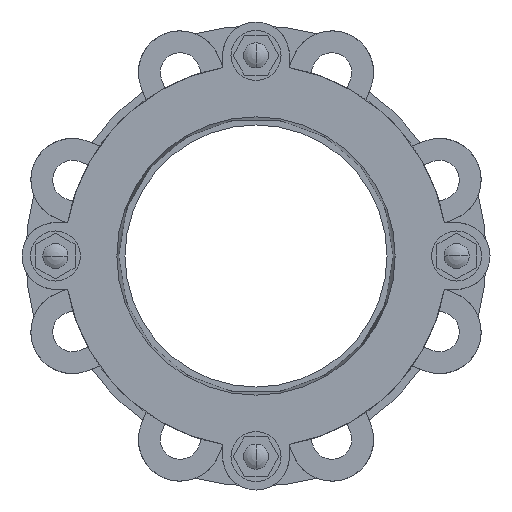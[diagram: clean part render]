
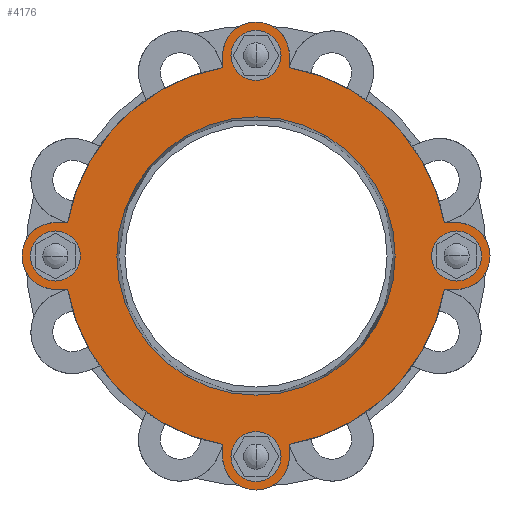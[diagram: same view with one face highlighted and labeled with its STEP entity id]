
A CAD part, left-side view. The second image highlights one B-rep face of the part: STEP entity #4176.
In plain terms, the highlighted planar face has unit normal (-1, 0, 0).
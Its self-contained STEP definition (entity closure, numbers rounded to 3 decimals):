
#355=CARTESIAN_POINT('',(-95.,0.,0.));
#356=DIRECTION('',(-1.,0.,0.));
#357=DIRECTION('',(0.,-0.174,-0.985));
#358=AXIS2_PLACEMENT_3D('',#355,#356,#357);
#391=CARTESIAN_POINT('',(-95.,0.,0.));
#392=DIRECTION('',(-1.,0.,0.));
#393=DIRECTION('',(0.,0.985,-0.174));
#394=AXIS2_PLACEMENT_3D('',#391,#392,#393);
#400=CARTESIAN_POINT('',(-95.,0.,0.));
#401=DIRECTION('',(-1.,0.,0.));
#402=DIRECTION('',(0.,0.174,0.985));
#403=AXIS2_PLACEMENT_3D('',#400,#401,#402);
#427=CARTESIAN_POINT('',(-95.,0.,0.));
#428=DIRECTION('',(-1.,0.,0.));
#429=DIRECTION('',(0.,-0.985,0.174));
#430=AXIS2_PLACEMENT_3D('',#427,#428,#429);
#485=DIRECTION('',(0.,0.,-1.));
#486=VECTOR('',#485,5.906);
#487=CARTESIAN_POINT('',(-95.,16.,-90.344));
#488=LINE('',#487,#486);
#497=CARTESIAN_POINT('',(-95.,0.,-96.25));
#498=DIRECTION('',(-1.,0.,0.));
#499=DIRECTION('',(0.,0.,-1.));
#500=AXIS2_PLACEMENT_3D('',#497,#498,#499);
#502=CARTESIAN_POINT('',(-95.,0.,-96.25));
#503=DIRECTION('',(-1.,0.,0.));
#504=DIRECTION('',(0.,0.,1.));
#505=AXIS2_PLACEMENT_3D('',#502,#503,#504);
#507=CARTESIAN_POINT('',(-95.,0.,96.25));
#508=DIRECTION('',(-1.,0.,0.));
#509=DIRECTION('',(0.,0.,1.));
#510=AXIS2_PLACEMENT_3D('',#507,#508,#509);
#512=CARTESIAN_POINT('',(-95.,0.,96.25));
#513=DIRECTION('',(-1.,0.,0.));
#514=DIRECTION('',(0.,0.,-1.));
#515=AXIS2_PLACEMENT_3D('',#512,#513,#514);
#517=CARTESIAN_POINT('',(-95.,96.25,0.));
#518=DIRECTION('',(-1.,0.,0.));
#519=DIRECTION('',(0.,1.,0.));
#520=AXIS2_PLACEMENT_3D('',#517,#518,#519);
#522=CARTESIAN_POINT('',(-95.,96.25,0.));
#523=DIRECTION('',(-1.,0.,0.));
#524=DIRECTION('',(0.,-1.,0.));
#525=AXIS2_PLACEMENT_3D('',#522,#523,#524);
#527=DIRECTION('',(0.,-1.,0.));
#528=VECTOR('',#527,5.906);
#529=CARTESIAN_POINT('',(-95.,96.25,-16.));
#530=LINE('',#529,#528);
#531=CARTESIAN_POINT('',(-95.,96.25,0.));
#532=DIRECTION('',(-1.,0.,0.));
#533=DIRECTION('',(0.,0.,1.));
#534=AXIS2_PLACEMENT_3D('',#531,#532,#533);
#536=DIRECTION('',(0.,1.,0.));
#537=VECTOR('',#536,5.906);
#538=CARTESIAN_POINT('',(-95.,90.344,16.));
#539=LINE('',#538,#537);
#540=CARTESIAN_POINT('',(-95.,-96.25,0.));
#541=DIRECTION('',(-1.,0.,0.));
#542=DIRECTION('',(0.,-1.,0.));
#543=AXIS2_PLACEMENT_3D('',#540,#541,#542);
#545=CARTESIAN_POINT('',(-95.,-96.25,0.));
#546=DIRECTION('',(-1.,0.,0.));
#547=DIRECTION('',(0.,1.,0.));
#548=AXIS2_PLACEMENT_3D('',#545,#546,#547);
#934=DIRECTION('',(0.,0.,1.));
#935=VECTOR('',#934,5.906);
#936=CARTESIAN_POINT('',(-95.,-16.,-96.25));
#937=LINE('',#936,#935);
#950=CARTESIAN_POINT('',(-95.,0.,-96.25));
#951=DIRECTION('',(-1.,0.,0.));
#952=DIRECTION('',(0.,1.,0.));
#953=AXIS2_PLACEMENT_3D('',#950,#951,#952);
#1627=CARTESIAN_POINT('',(-95.,0.,0.));
#1628=DIRECTION('',(1.,0.,0.));
#1629=DIRECTION('',(0.,1.,0.));
#1630=AXIS2_PLACEMENT_3D('',#1627,#1628,#1629);
#1640=CARTESIAN_POINT('',(-95.,0.,0.));
#1641=DIRECTION('',(-1.,0.,0.));
#1642=DIRECTION('',(0.,1.,0.));
#1643=AXIS2_PLACEMENT_3D('',#1640,#1641,#1642);
#2217=DIRECTION('',(0.,0.,-1.));
#2218=VECTOR('',#2217,5.906);
#2219=CARTESIAN_POINT('',(-95.,16.,96.25));
#2220=LINE('',#2219,#2218);
#2233=CARTESIAN_POINT('',(-95.,0.,96.25));
#2234=DIRECTION('',(-1.,0.,0.));
#2235=DIRECTION('',(0.,-1.,0.));
#2236=AXIS2_PLACEMENT_3D('',#2233,#2234,#2235);
#2256=DIRECTION('',(0.,0.,1.));
#2257=VECTOR('',#2256,5.906);
#2258=CARTESIAN_POINT('',(-95.,-16.,90.344));
#2259=LINE('',#2258,#2257);
#2503=DIRECTION('',(0.,1.,0.));
#2504=VECTOR('',#2503,5.906);
#2505=CARTESIAN_POINT('',(-95.,-96.25,16.));
#2506=LINE('',#2505,#2504);
#2545=DIRECTION('',(0.,-1.,0.));
#2546=VECTOR('',#2545,5.906);
#2547=CARTESIAN_POINT('',(-95.,-90.344,-16.));
#2548=LINE('',#2547,#2546);
#2557=CARTESIAN_POINT('',(-95.,-96.25,0.));
#2558=DIRECTION('',(-1.,0.,0.));
#2559=DIRECTION('',(0.,0.,-1.));
#2560=AXIS2_PLACEMENT_3D('',#2557,#2558,#2559);
#2754=CARTESIAN_POINT('',(-95.,66.75,0.));
#2756=VERTEX_POINT('',#2754);
#2758=CARTESIAN_POINT('',(-95.,-66.75,0.));
#2760=VERTEX_POINT('',#2758);
#2770=CARTESIAN_POINT('',(-95.,96.25,16.));
#2771=CARTESIAN_POINT('',(-95.,96.25,-16.));
#2772=VERTEX_POINT('',#2770);
#2773=VERTEX_POINT('',#2771);
#2775=CARTESIAN_POINT('',(-95.,90.344,16.));
#2777=VERTEX_POINT('',#2775);
#2778=CARTESIAN_POINT('',(-95.,90.344,-16.));
#2780=VERTEX_POINT('',#2778);
#2838=CARTESIAN_POINT('',(-95.,16.,96.25));
#2839=VERTEX_POINT('',#2838);
#2840=CARTESIAN_POINT('',(-95.,-16.,96.25));
#2841=VERTEX_POINT('',#2840);
#2870=CARTESIAN_POINT('',(-95.,-96.25,16.));
#2871=VERTEX_POINT('',#2870);
#2872=CARTESIAN_POINT('',(-95.,-96.25,-16.));
#2873=VERTEX_POINT('',#2872);
#2902=CARTESIAN_POINT('',(-95.,-16.,-96.25));
#2903=VERTEX_POINT('',#2902);
#2904=CARTESIAN_POINT('',(-95.,16.,-96.25));
#2905=VERTEX_POINT('',#2904);
#2914=CARTESIAN_POINT('',(-95.,-16.,90.344));
#2915=VERTEX_POINT('',#2914);
#2916=CARTESIAN_POINT('',(-95.,16.,90.344));
#2917=VERTEX_POINT('',#2916);
#2926=CARTESIAN_POINT('',(-95.,-90.344,-16.));
#2927=VERTEX_POINT('',#2926);
#2928=CARTESIAN_POINT('',(-95.,-90.344,16.));
#2929=VERTEX_POINT('',#2928);
#2940=CARTESIAN_POINT('',(-95.,16.,-90.344));
#2941=VERTEX_POINT('',#2940);
#2942=CARTESIAN_POINT('',(-95.,-16.,-90.344));
#2943=VERTEX_POINT('',#2942);
#3282=CARTESIAN_POINT('',(-95.,108.25,0.));
#3283=CARTESIAN_POINT('',(-95.,84.25,0.));
#3284=VERTEX_POINT('',#3282);
#3285=VERTEX_POINT('',#3283);
#3444=CARTESIAN_POINT('',(-95.,0.,108.25));
#3445=VERTEX_POINT('',#3444);
#3446=CARTESIAN_POINT('',(-95.,0.,84.25));
#3447=VERTEX_POINT('',#3446);
#3456=CARTESIAN_POINT('',(-95.,-108.25,0.));
#3457=VERTEX_POINT('',#3456);
#3458=CARTESIAN_POINT('',(-95.,-84.25,0.));
#3459=VERTEX_POINT('',#3458);
#3468=CARTESIAN_POINT('',(-95.,0.,-108.25));
#3469=VERTEX_POINT('',#3468);
#3470=CARTESIAN_POINT('',(-95.,0.,-84.25));
#3471=VERTEX_POINT('',#3470);
#4112=CARTESIAN_POINT('',(-95.,0.,0.));
#4113=DIRECTION('',(1.,0.,0.));
#4114=DIRECTION('',(0.,-1.,0.));
#4115=AXIS2_PLACEMENT_3D('',#4112,#4113,#4114);
#4116=PLANE('',#4115);
#4117=ORIENTED_EDGE('',*,*,#3959,.F.);
#4119=ORIENTED_EDGE('',*,*,#4118,.F.);
#4121=ORIENTED_EDGE('',*,*,#4120,.F.);
#4122=ORIENTED_EDGE('',*,*,#4102,.F.);
#4123=ORIENTED_EDGE('',*,*,#3984,.F.);
#4125=ORIENTED_EDGE('',*,*,#4124,.F.);
#4127=ORIENTED_EDGE('',*,*,#4126,.F.);
#4129=ORIENTED_EDGE('',*,*,#4128,.F.);
#4130=ORIENTED_EDGE('',*,*,#4004,.F.);
#4132=ORIENTED_EDGE('',*,*,#4131,.F.);
#4134=ORIENTED_EDGE('',*,*,#4133,.F.);
#4136=ORIENTED_EDGE('',*,*,#4135,.F.);
#4137=ORIENTED_EDGE('',*,*,#4027,.F.);
#4139=ORIENTED_EDGE('',*,*,#4138,.F.);
#4141=ORIENTED_EDGE('',*,*,#4140,.F.);
#4143=ORIENTED_EDGE('',*,*,#4142,.F.);
#4144=EDGE_LOOP('',(#4117,#4119,#4121,#4122,#4123,#4125,#4127,#4129,#4130,#4132,
#4134,#4136,#4137,#4139,#4141,#4143));
#4145=FACE_OUTER_BOUND('',#4144,.F.);
#4147=ORIENTED_EDGE('',*,*,#4146,.T.);
#4149=ORIENTED_EDGE('',*,*,#4148,.T.);
#4150=EDGE_LOOP('',(#4147,#4149));
#4151=FACE_BOUND('',#4150,.F.);
#4153=ORIENTED_EDGE('',*,*,#4152,.T.);
#4155=ORIENTED_EDGE('',*,*,#4154,.T.);
#4156=EDGE_LOOP('',(#4153,#4155));
#4157=FACE_BOUND('',#4156,.F.);
#4159=ORIENTED_EDGE('',*,*,#4158,.T.);
#4161=ORIENTED_EDGE('',*,*,#4160,.T.);
#4162=EDGE_LOOP('',(#4159,#4161));
#4163=FACE_BOUND('',#4162,.F.);
#4165=ORIENTED_EDGE('',*,*,#4164,.F.);
#4167=ORIENTED_EDGE('',*,*,#4166,.T.);
#4168=EDGE_LOOP('',(#4165,#4167));
#4169=FACE_BOUND('',#4168,.F.);
#4171=ORIENTED_EDGE('',*,*,#4170,.T.);
#4173=ORIENTED_EDGE('',*,*,#4172,.T.);
#4174=EDGE_LOOP('',(#4171,#4173));
#4175=FACE_BOUND('',#4174,.F.);
#4176=ADVANCED_FACE('',(#4145,#4151,#4157,#4163,#4169,#4175),#4116,.F.);
#359=CIRCLE('',#358,91.75);
#395=CIRCLE('',#394,91.75);
#404=CIRCLE('',#403,91.75);
#431=CIRCLE('',#430,91.75);
#501=CIRCLE('',#500,12.);
#506=CIRCLE('',#505,12.);
#511=CIRCLE('',#510,12.);
#516=CIRCLE('',#515,12.);
#521=CIRCLE('',#520,12.);
#526=CIRCLE('',#525,12.);
#535=CIRCLE('',#534,16.);
#544=CIRCLE('',#543,12.);
#549=CIRCLE('',#548,12.);
#954=CIRCLE('',#953,16.);
#1631=CIRCLE('',#1630,66.75);
#1644=CIRCLE('',#1643,66.75);
#2237=CIRCLE('',#2236,16.);
#2561=CIRCLE('',#2560,16.);
#3959=EDGE_CURVE('',#2943,#2927,#359,.T.);
#3984=EDGE_CURVE('',#2780,#2941,#395,.T.);
#4004=EDGE_CURVE('',#2917,#2777,#404,.T.);
#4027=EDGE_CURVE('',#2929,#2915,#431,.T.);
#4102=EDGE_CURVE('',#2941,#2905,#488,.T.);
#4118=EDGE_CURVE('',#2903,#2943,#937,.T.);
#4120=EDGE_CURVE('',#2905,#2903,#954,.T.);
#4124=EDGE_CURVE('',#2773,#2780,#530,.T.);
#4126=EDGE_CURVE('',#2772,#2773,#535,.T.);
#4128=EDGE_CURVE('',#2777,#2772,#539,.T.);
#4131=EDGE_CURVE('',#2839,#2917,#2220,.T.);
#4133=EDGE_CURVE('',#2841,#2839,#2237,.T.);
#4135=EDGE_CURVE('',#2915,#2841,#2259,.T.);
#4138=EDGE_CURVE('',#2871,#2929,#2506,.T.);
#4140=EDGE_CURVE('',#2873,#2871,#2561,.T.);
#4142=EDGE_CURVE('',#2927,#2873,#2548,.T.);
#4146=EDGE_CURVE('',#3445,#3447,#511,.T.);
#4148=EDGE_CURVE('',#3447,#3445,#516,.T.);
#4152=EDGE_CURVE('',#3284,#3285,#521,.T.);
#4154=EDGE_CURVE('',#3285,#3284,#526,.T.);
#4158=EDGE_CURVE('',#3469,#3471,#501,.T.);
#4160=EDGE_CURVE('',#3471,#3469,#506,.T.);
#4164=EDGE_CURVE('',#2756,#2760,#1631,.T.);
#4166=EDGE_CURVE('',#2756,#2760,#1644,.T.);
#4170=EDGE_CURVE('',#3457,#3459,#544,.T.);
#4172=EDGE_CURVE('',#3459,#3457,#549,.T.);
